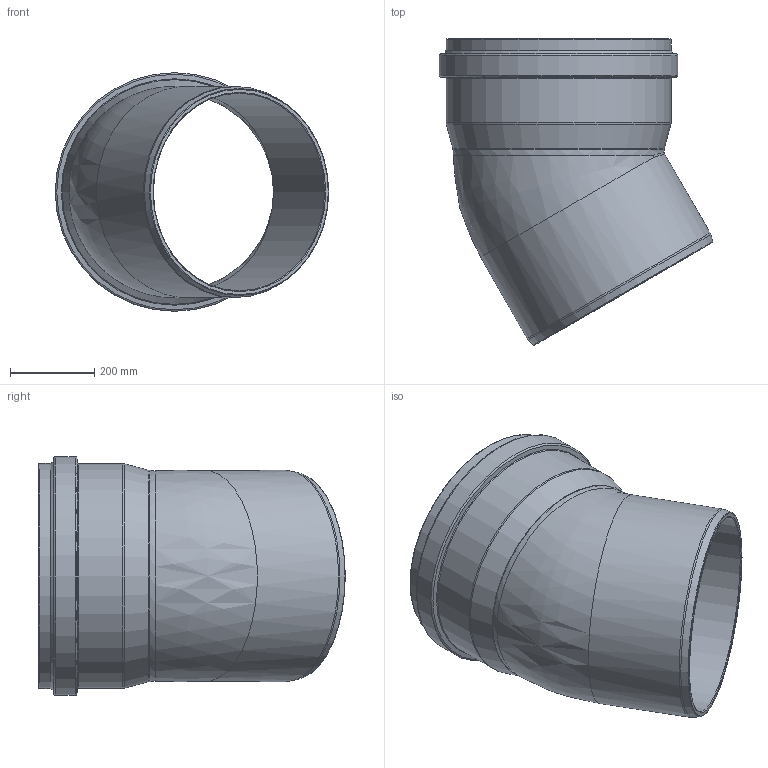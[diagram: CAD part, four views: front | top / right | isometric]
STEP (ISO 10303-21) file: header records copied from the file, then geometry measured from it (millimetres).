
FILE_DESCRIPTION(/* description */ (''),/* implementation_level */ '2;1');
FILE_NAME(/* name */ '771110z.stp',/* time_stamp */ '2025-08-26T11:54:29+02:00',/* author */ ('corinna'),/* organization */ (''),/* preprocessor_version */ 'ST-DEVELOPER v20',/* originating_system */ 'Autodesk Inventor 2024',/* authorisation */ '');
FILE_SCHEMA (('AUTOMOTIVE_DESIGN { 1 0 10303 214 3 1 1 }'));
Length unit declared in the file: millimetre
Products named in the file (1): 771110z
Bounding box: 648 x 726.31 x 565.5 mm (x, y, z)
Volume: 15759280.4 mm3; surface area: 2137046 mm2
Topology: 1 solids, 1 shells, 47 faces, 131 edges, 85 vertices
Faces by surface type: torus 20, cylinder 11, cone 10, bspline 3, plane 3
Full cylindrical faces by diameter (mm): 468.5 x2, 500.5 x2, 503 x1, 503.5 x2, 533 x1, 533.5 x1, 535.5 x1, 565.5 x1
Entity records: 1802 total; most frequent: CARTESIAN_POINT 467, DIRECTION 323, ORIENTED_EDGE 258, AXIS2_PLACEMENT_3D 151, EDGE_CURVE 129, CIRCLE 102, VERTEX_POINT 85, EDGE_LOOP 50
